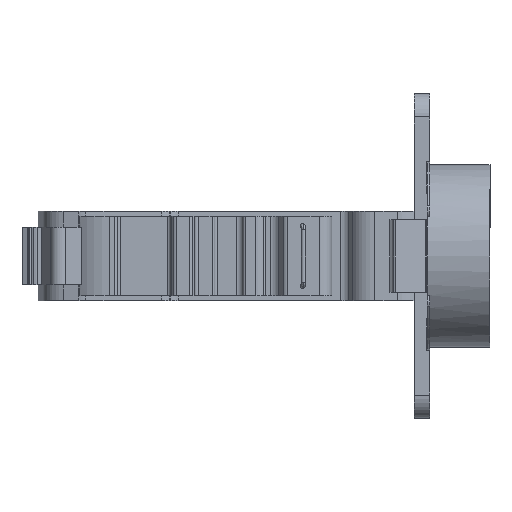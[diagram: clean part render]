
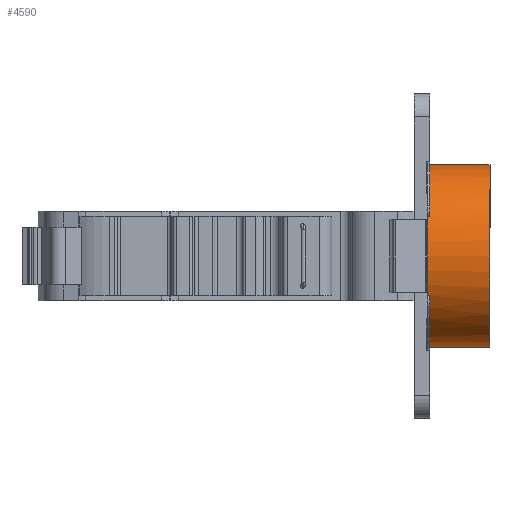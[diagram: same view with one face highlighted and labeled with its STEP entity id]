
A CAD part, front view. The second image highlights one B-rep face of the part: STEP entity #4590.
In plain terms, the highlighted cylindrical face has radius 17.4 mm (diameter 34.8 mm), a partial arc.
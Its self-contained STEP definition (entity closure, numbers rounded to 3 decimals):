
#23 = LINE ( 'NONE', #2956, #712 ) ;
#109 = CARTESIAN_POINT ( 'NONE',  ( 13.006, 5.496, 17.4 ) ) ;
#126 = CARTESIAN_POINT ( 'NONE',  ( -8.494, -10.204, 7.5 ) ) ;
#224 = DIRECTION ( 'NONE',  ( -1., 0., 0. ) ) ;
#341 = ORIENTED_EDGE ( 'NONE', *, *, #4776, .F. ) ;
#423 = DIRECTION ( 'NONE',  ( 0., 0., 1. ) ) ;
#527 = CARTESIAN_POINT ( 'NONE',  ( 13.006, 5.496, -17.4 ) ) ;
#712 = VECTOR ( 'NONE', #2116, 1000. ) ;
#737 = CIRCLE ( 'NONE', #2618, 17.4 ) ;
#806 = CARTESIAN_POINT ( 'NONE',  ( -48.208, 5.496, 0. ) ) ;
#882 = AXIS2_PLACEMENT_3D ( 'NONE', #806, #5623, #2982 ) ;
#959 = CARTESIAN_POINT ( 'NONE',  ( 1.506, 5.496, -17.4 ) ) ;
#963 = B_SPLINE_CURVE_WITH_KNOTS ( 'NONE', 3,
 ( #1462, #4046, #4930, #2324 ),
 .UNSPECIFIED., .F., .F.,
 ( 4, 4 ),
 ( 0.001, 0.001 ),
 .UNSPECIFIED. ) ;
#994 = CARTESIAN_POINT ( 'NONE',  ( 1.006, -9.895, 8.117 ) ) ;
#1064 = B_SPLINE_CURVE_WITH_KNOTS ( 'NONE', 3,
 ( #2775, #1524, #4070, #1856 ),
 .UNSPECIFIED., .F., .F.,
 ( 4, 4 ),
 ( 0., 0.001 ),
 .UNSPECIFIED. ) ;
#1135 = CIRCLE ( 'NONE', #2773, 17.4 ) ;
#1181 = CARTESIAN_POINT ( 'NONE',  ( 1.006, -9.895, -8.117 ) ) ;
#1328 = ORIENTED_EDGE ( 'NONE', *, *, #5637, .F. ) ;
#1395 = VERTEX_POINT ( 'NONE', #1466 ) ;
#1412 = VERTEX_POINT ( 'NONE', #994 ) ;
#1462 = CARTESIAN_POINT ( 'NONE',  ( 1.059, -10.204, -7.5 ) ) ;
#1466 = CARTESIAN_POINT ( 'NONE',  ( 1.059, -10.204, -7.5 ) ) ;
#1524 = CARTESIAN_POINT ( 'NONE',  ( 1.006, -10.002, 7.912 ) ) ;
#1539 = DIRECTION ( 'NONE',  ( -1., 0., 0. ) ) ;
#1543 = EDGE_CURVE ( 'NONE', #3218, #3339, #4932, .T. ) ;
#1598 = CARTESIAN_POINT ( 'NONE',  ( 13.006, 5.496, 0. ) ) ;
#1664 = EDGE_CURVE ( 'NONE', #1412, #3218, #1064, .T. ) ;
#1740 = CARTESIAN_POINT ( 'NONE',  ( 1.006, 5.496, 0. ) ) ;
#1744 = CARTESIAN_POINT ( 'NONE',  ( 1.506, -10.204, 7.5 ) ) ;
#1796 = VERTEX_POINT ( 'NONE', #3279 ) ;
#1856 = CARTESIAN_POINT ( 'NONE',  ( 1.059, -10.204, 7.5 ) ) ;
#1918 = AXIS2_PLACEMENT_3D ( 'NONE', #1989, #224, #2414 ) ;
#1986 = VECTOR ( 'NONE', #4058, 1000. ) ;
#1989 = CARTESIAN_POINT ( 'NONE',  ( 1.506, 5.496, 0. ) ) ;
#2034 = DIRECTION ( 'NONE',  ( 0., 0., -1. ) ) ;
#2094 = CARTESIAN_POINT ( 'NONE',  ( -48.208, 5.496, -17.4 ) ) ;
#2111 = DIRECTION ( 'NONE',  ( 1., 0., 0. ) ) ;
#2116 = DIRECTION ( 'NONE',  ( 1., 0., 0. ) ) ;
#2137 = LINE ( 'NONE', #3607, #1986 ) ;
#2320 = AXIS2_PLACEMENT_3D ( 'NONE', #1598, #4644, #2034 ) ;
#2324 = CARTESIAN_POINT ( 'NONE',  ( 1.006, -9.895, -8.117 ) ) ;
#2379 = EDGE_CURVE ( 'NONE', #3339, #5603, #737, .T. ) ;
#2414 = DIRECTION ( 'NONE',  ( 0., 0., 1. ) ) ;
#2617 = EDGE_CURVE ( 'NONE', #3658, #1796, #5311, .T. ) ;
#2618 = AXIS2_PLACEMENT_3D ( 'NONE', #3280, #1539, #3340 ) ;
#2694 = ORIENTED_EDGE ( 'NONE', *, *, #4044, .T. ) ;
#2710 = EDGE_CURVE ( 'NONE', #1412, #5451, #1135, .T. ) ;
#2773 = AXIS2_PLACEMENT_3D ( 'NONE', #1740, #2111, #423 ) ;
#2775 = CARTESIAN_POINT ( 'NONE',  ( 1.006, -9.895, 8.117 ) ) ;
#2788 = VECTOR ( 'NONE', #3392, 1000. ) ;
#2956 = CARTESIAN_POINT ( 'NONE',  ( -8.494, -10.204, -7.5 ) ) ;
#2982 = DIRECTION ( 'NONE',  ( 0., 0., -1. ) ) ;
#3218 = VERTEX_POINT ( 'NONE', #3814 ) ;
#3279 = CARTESIAN_POINT ( 'NONE',  ( 1.506, -10.204, -7.5 ) ) ;
#3280 = CARTESIAN_POINT ( 'NONE',  ( 1.506, 5.496, 0. ) ) ;
#3339 = VERTEX_POINT ( 'NONE', #1744 ) ;
#3340 = DIRECTION ( 'NONE',  ( 0., 0., 1. ) ) ;
#3392 = DIRECTION ( 'NONE',  ( 1., 0., 0. ) ) ;
#3449 = VERTEX_POINT ( 'NONE', #527 ) ;
#3462 = VERTEX_POINT ( 'NONE', #109 ) ;
#3586 = CARTESIAN_POINT ( 'NONE',  ( 1.506, 5.496, 17.4 ) ) ;
#3607 = CARTESIAN_POINT ( 'NONE',  ( -48.208, 5.496, 17.4 ) ) ;
#3614 = VECTOR ( 'NONE', #5573, 1000. ) ;
#3658 = VERTEX_POINT ( 'NONE', #959 ) ;
#3667 = ORIENTED_EDGE ( 'NONE', *, *, #2379, .F. ) ;
#3759 = ORIENTED_EDGE ( 'NONE', *, *, #2617, .F. ) ;
#3814 = CARTESIAN_POINT ( 'NONE',  ( 1.059, -10.204, 7.5 ) ) ;
#3819 = CYLINDRICAL_SURFACE ( 'NONE', #882, 17.4 ) ;
#3959 = FACE_OUTER_BOUND ( 'NONE', #4722, .T. ) ;
#3962 = LINE ( 'NONE', #2094, #2788 ) ;
#4044 = EDGE_CURVE ( 'NONE', #3658, #3449, #3962, .T. ) ;
#4046 = CARTESIAN_POINT ( 'NONE',  ( 1.032, -10.105, -7.707 ) ) ;
#4058 = DIRECTION ( 'NONE',  ( 1., 0., 0. ) ) ;
#4070 = CARTESIAN_POINT ( 'NONE',  ( 1.032, -10.105, 7.707 ) ) ;
#4145 = CIRCLE ( 'NONE', #2320, 17.4 ) ;
#4189 = ORIENTED_EDGE ( 'NONE', *, *, #1543, .F. ) ;
#4235 = EDGE_CURVE ( 'NONE', #5603, #3462, #2137, .T. ) ;
#4549 = ORIENTED_EDGE ( 'NONE', *, *, #1664, .F. ) ;
#4590 = ADVANCED_FACE ( 'NONE', ( #3959 ), #3819, .T. ) ;
#4644 = DIRECTION ( 'NONE',  ( 1., 0., 0. ) ) ;
#4722 = EDGE_LOOP ( 'NONE', ( #4765, #3667, #4189, #4549, #5567, #1328, #4972, #3759, #2694, #341 ) ) ;
#4765 = ORIENTED_EDGE ( 'NONE', *, *, #4235, .F. ) ;
#4776 = EDGE_CURVE ( 'NONE', #3462, #3449, #4145, .T. ) ;
#4930 = CARTESIAN_POINT ( 'NONE',  ( 1.006, -10.002, -7.912 ) ) ;
#4932 = LINE ( 'NONE', #126, #3614 ) ;
#4972 = ORIENTED_EDGE ( 'NONE', *, *, #5546, .T. ) ;
#5311 = CIRCLE ( 'NONE', #1918, 17.4 ) ;
#5451 = VERTEX_POINT ( 'NONE', #1181 ) ;
#5546 = EDGE_CURVE ( 'NONE', #1395, #1796, #23, .T. ) ;
#5567 = ORIENTED_EDGE ( 'NONE', *, *, #2710, .T. ) ;
#5573 = DIRECTION ( 'NONE',  ( 1., 0., 0. ) ) ;
#5603 = VERTEX_POINT ( 'NONE', #3586 ) ;
#5623 = DIRECTION ( 'NONE',  ( 1., 0., 0. ) ) ;
#5637 = EDGE_CURVE ( 'NONE', #1395, #5451, #963, .T. ) ;
